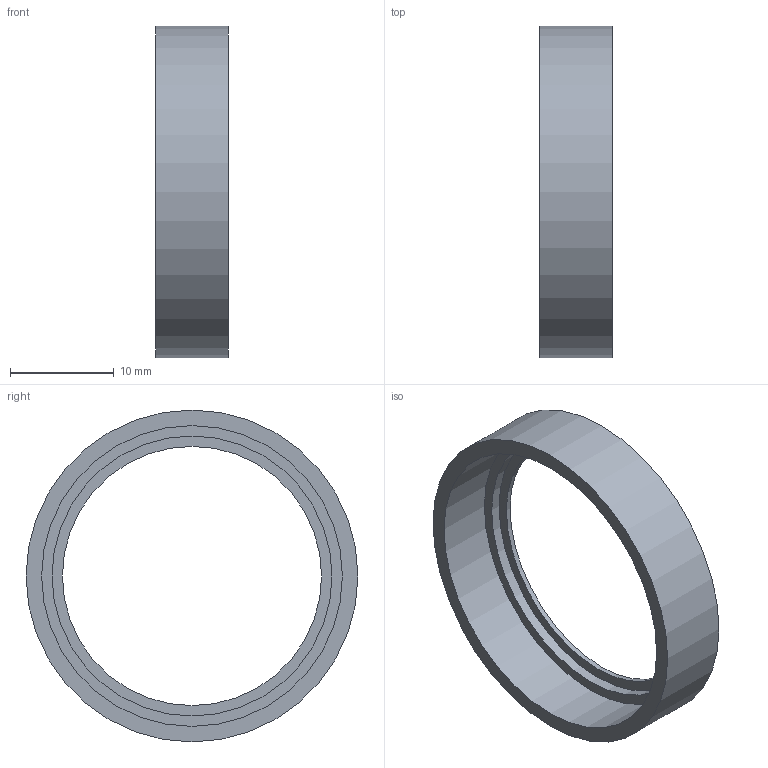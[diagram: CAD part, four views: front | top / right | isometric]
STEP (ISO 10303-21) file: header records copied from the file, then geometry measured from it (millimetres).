
FILE_DESCRIPTION(/* description */ ('Крышка зеркала'),/* implementation_level */ '2;1');
FILE_NAME(/* name */ 'D:\ \Работа\JuniorSkills\2018\ОтборочныйЗадание\Микроскоп\STEP\Крышка зеркала.stp',/* time_stamp */ '2017-11-09T06:45:06+07:00',/* author */ ('Andrey'),/* organization */ (''),/* preprocessor_version */ 'ST-DEVELOPER v15.6',/* originating_system */ 'Autodesk Inventor 2015',/* authorisation */ '');
FILE_SCHEMA (('AUTOMOTIVE_DESIGN { 1 0 10303 214 3 1 1 }'));
Length unit declared in the file: millimetre
Products named in the file (1): Крышка \X2\043704350440043A0430
043B0430\X0\
Bounding box: 7 x 32 x 32 mm (x, y, z)
Volume: 1178.9 mm3; surface area: 1955.6 mm2
Topology: 1 solids, 1 shells, 8 faces, 12 edges, 8 vertices
Faces by surface type: cylinder 4, plane 4
Full cylindrical faces by diameter (mm): 25 x1, 27 x1, 29 x1, 32 x1
Entity records: 192 total; most frequent: DIRECTION 34, CARTESIAN_POINT 25, AXIS2_PLACEMENT_3D 17, EDGE_LOOP 16, ORIENTED_EDGE 16, FACE_BOUND 8, FACE_OUTER_BOUND 8, CIRCLE 8
